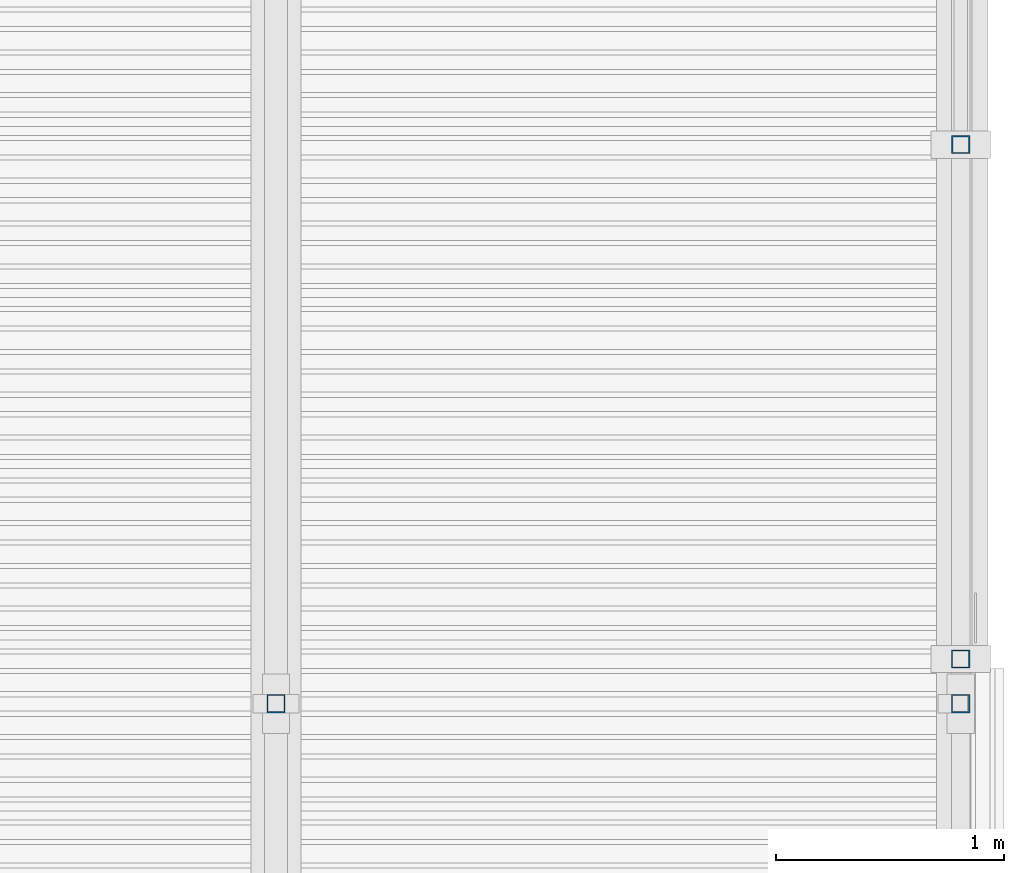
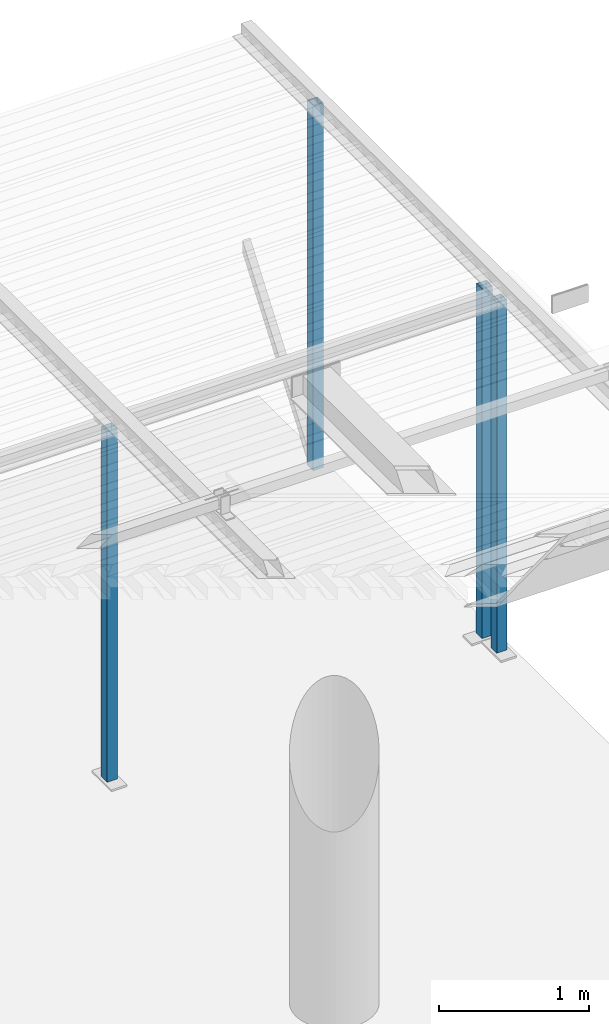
# One storey, part 5 of 98: 4 columns.
"""IFC2X3 building model written with IfcOpenShell, lengths in millimetres."""

from ifc_helpers import new_model, entity, si_unit, converted_unit, derived_unit, direction, frame, origin_with_axes, place, context, subcontext, project, spatial, faceted_brep, material, type_object, element, save


model = new_model("IFC2X3")

# Units and contexts
model_context = context("Model", 3, precision=0.01, world=frame((0.0, 4.29681676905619e-09, 0.0)), true_north=direction((4.01073788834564e-13, 1.0)))
plan_context = context("Plan", 3, precision=0.01, world=frame((0.0, 4.29681676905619e-09, 0.0)), true_north=direction((4.01073788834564e-13, 1.0)))
body_context = subcontext(model_context, "Body", "Model", "MODEL_VIEW")
ifc_project = project(units=[converted_unit("PLANEANGLEUNIT", "DEGREE", entity("IfcPositiveLengthMeasure", 0.0174532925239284), si_unit("PLANEANGLEUNIT", "RADIAN"), dimensions=[0, 0, 0, 0, 0, 0, 0]), si_unit("AREAUNIT", "SQUARE_METRE"), si_unit("LENGTHUNIT", "METRE", prefix="MILLI"), si_unit("MASSUNIT", "GRAM", prefix="KILO"), si_unit("POWERUNIT", "WATT"), si_unit("PRESSUREUNIT", "PASCAL"), si_unit("FORCEUNIT", "NEWTON", prefix="KILO"), si_unit("ELECTRICCURRENTUNIT", "AMPERE"), si_unit("THERMODYNAMICTEMPERATUREUNIT", "DEGREE_CELSIUS"), si_unit("TIMEUNIT", "SECOND"), si_unit("VOLUMEUNIT", "CUBIC_METRE"), derived_unit("LINEARVELOCITYUNIT", [(si_unit("LENGTHUNIT", "METRE"), 1), (si_unit("TIMEUNIT", "SECOND"), -1)]), derived_unit("VOLUMETRICFLOWRATEUNIT", [(si_unit("VOLUMEUNIT", "CUBIC_METRE"), 1), (si_unit("TIMEUNIT", "SECOND"), -1)]), derived_unit("THERMALTRANSMITTANCEUNIT", [(si_unit("POWERUNIT", "WATT"), 1), (si_unit("THERMODYNAMICTEMPERATUREUNIT", "KELVIN"), -1), (si_unit("AREAUNIT", "SQUARE_METRE"), -1)])], contexts=[model_context, plan_context])

# Site, building, storey
site_placement = place(None, frame((0.0, -4.29681676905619e-09, 0.0), z_axis=(0.0, 0.0, 1.0), x_axis=(1.0, 0.0, 0.0)))
site = spatial("IfcSite", under=ifc_project, at=site_placement, Name="Gardermoen", CompositionType="ELEMENT")
building_placement = place(site_placement, frame((0.0, 4.29681676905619e-09, 0.0), z_axis=(0.0, 0.0, 1.0), x_axis=(1.0, 0.0, 0.0)))
building = spatial("IfcBuilding", under=site, at=building_placement, Name="TS", CompositionType="ELEMENT")
storey_placement = place(building_placement, origin_with_axes())
storey = spatial("IfcBuildingStorey", under=building, at=storey_placement, Name="D", CompositionType="ELEMENT", Elevation=0.0)

# Columns
ifc_material = material(Name="STEEL/S355")
column_type_1 = type_object("IfcColumnType", Name="RHS80*5", PredefinedType="NOTDEFINED")
for number, where, z_axis, x_axis in (
    (1, (529000.004834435, 417499.941078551, 203970.0), (-0.999999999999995, -9.99999902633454e-08, 6.46199937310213e-13), (0.0, 6.46200000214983e-06, 0.999999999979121)),
    (2, (532000.004834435, 417499.941078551, 203970.0), (-0.999999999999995, -9.99999902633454e-08, 6.46199937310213e-13), (0.0, 6.46200000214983e-06, 0.999999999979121)),
):
    element("IfcColumn", number, at=place(storey_placement, frame(where, z_axis=z_axis, x_axis=x_axis)), inside=storey, type_object=column_type_1, material=ifc_material, Name="STÅLSØYLE", ObjectType="RHS80*5", context=body_context, shape_type="Brep", body=[
        faceted_brep([(-25.0000153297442, 35.0000000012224, -35.0), (-24.9999846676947, -35.0000000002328, -35.0), (2827.00000003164, -35.0000000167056, -35.0), (2827.00000003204, 34.9999999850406, -35.0), (-24.9999846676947, -35.0000000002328, 35.0), (2827.00000003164, -35.0000000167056, 35.0), (-25.0000153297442, 35.0000000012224, 35.0), (2827.00000003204, 34.9999999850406, 35.0), (-25.0000175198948, 40.0000000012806, -40.0), (-25.0000175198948, 40.0000000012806, 40.0), (2827.00000003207, 39.999999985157, 40.0), (2827.00000003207, 39.999999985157, -40.0), (-24.9999824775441, -40.0000000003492, 40.0), (2827.00000003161, -40.0000000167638, 40.0), (-24.9999824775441, -40.0000000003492, -40.0), (2827.00000003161, -40.0000000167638, -40.0)], [[[0, 1, 2, 3]], [[1, 4, 5, 2]], [[4, 6, 7, 5]], [[6, 0, 3, 7]], [[8, 9, 10, 11]], [[9, 12, 13, 10]], [[12, 14, 15, 13]], [[14, 8, 11, 15]], [[13, 15, 11, 10], [5, 7, 3, 2]], [[14, 12, 9, 8], [6, 4, 1, 0]]]),
    ])
column_1_placement = place(storey_placement, frame((532000.004834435, 417695.981078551, 203970.0), z_axis=(0.0, -0.999999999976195, 6.90000000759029e-06), x_axis=(0.0, 6.90000000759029e-06, 0.999999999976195)))
element("IfcColumn", 3, at=column_1_placement, inside=storey, type_object=column_type_1, material=ifc_material, Name="STÅLSØYLE", ObjectType="RHS80*5", context=body_context, shape_type="Brep", body=[
    faceted_brep([(-25.0000153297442, 35.0000000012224, -35.0), (-24.9999846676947, -35.0000000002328, -35.0), (2820.0, -35.0, -35.0), (2820.0, 35.0, -35.0), (-24.9999846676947, -35.0000000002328, 35.0), (2820.0, -35.0, 35.0), (-25.0000153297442, 35.0000000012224, 35.0), (2820.0, 35.0, 35.0), (-25.0000175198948, 40.0000000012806, -40.0), (-25.0000175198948, 40.0000000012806, 40.0), (2820.0, 40.0, 40.0), (2820.0, 40.0, -40.0), (-24.9999824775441, -40.0000000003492, 40.0), (2820.0, -40.0, 40.0), (-24.9999824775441, -40.0000000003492, -40.0), (2820.0, -40.0, -40.0)], [[[0, 1, 2, 3]], [[1, 4, 5, 2]], [[4, 6, 7, 5]], [[6, 0, 3, 7]], [[8, 9, 10, 11]], [[9, 12, 13, 10]], [[12, 14, 15, 13]], [[14, 8, 11, 15]], [[13, 15, 11, 10], [5, 7, 3, 2]], [[14, 12, 9, 8], [6, 4, 1, 0]]]),
])
column_type_2 = type_object("IfcColumnType", Name="RHS80*6.3", PredefinedType="NOTDEFINED")
column_2_placement = place(storey_placement, frame((532000.0, 419950.000682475, 203999.999237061), z_axis=(0.0, -1.0, 0.0), x_axis=(0.0, 0.0, 1.0)))
element("IfcColumn", 4, at=column_2_placement, inside=storey, type_object=column_type_2, material=ifc_material, Name="STÅLSØYLE", ObjectType="RHS80*6.3", context=body_context, shape_type="Brep", body=[
    faceted_brep([(-54.9999999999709, 33.6999998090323, -33.6999998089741), (-54.9999999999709, -33.6999998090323, -33.6999998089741), (2915.00076293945, -33.6999998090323, -33.6999998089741), (2915.00076293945, 33.6999998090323, -33.6999998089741), (-54.9999999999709, -33.6999998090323, 33.6999998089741), (2915.00076293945, -33.6999998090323, 33.6999998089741), (-54.9999999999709, 33.6999998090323, 33.6999998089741), (2915.00076293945, 33.6999998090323, 33.6999998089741), (-54.9999999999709, 40.0, -40.0), (-54.9999999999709, 40.0, 40.0), (2915.00076293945, 40.0, 40.0), (2915.00076293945, 40.0, -40.0), (-54.9999999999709, -40.0, 40.0), (2915.00076293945, -40.0, 40.0), (-54.9999999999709, -40.0, -40.0), (2915.00076293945, -40.0, -40.0)], [[[0, 1, 2, 3]], [[1, 4, 5, 2]], [[4, 6, 7, 5]], [[6, 0, 3, 7]], [[8, 9, 10, 11]], [[9, 12, 13, 10]], [[12, 14, 15, 13]], [[14, 8, 11, 15]], [[13, 15, 11, 10], [5, 7, 3, 2]], [[14, 12, 9, 8], [6, 4, 1, 0]]]),
])

save(model, "model.ifc")
